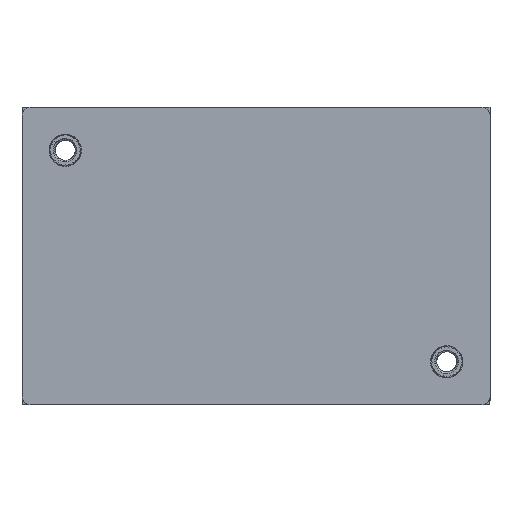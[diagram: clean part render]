
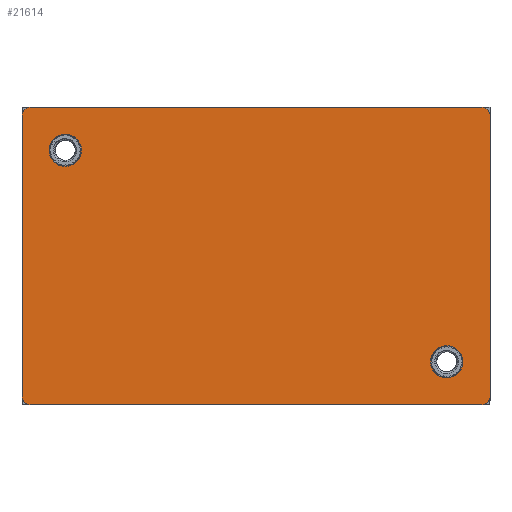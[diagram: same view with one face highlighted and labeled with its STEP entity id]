
A CAD part, front view. The second image highlights one B-rep face of the part: STEP entity #21614.
In plain terms, the highlighted planar face has unit normal (0, -1, 0).
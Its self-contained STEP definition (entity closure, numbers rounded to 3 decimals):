
#97 = ORIENTED_EDGE ( 'NONE', *, *, #21213, .F. ) ;
#459 = ORIENTED_EDGE ( 'NONE', *, *, #17378, .F. ) ;
#761 = EDGE_CURVE ( 'NONE', #12423, #12423, #20253, .T. ) ;
#789 = CARTESIAN_POINT ( 'NONE',  ( -27.95, -1.12, 17.395 ) ) ;
#1066 = EDGE_CURVE ( 'NONE', #16580, #5729, #11504, .T. ) ;
#1899 = AXIS2_PLACEMENT_3D ( 'NONE', #20144, #27161, #7591 ) ;
#2363 = DIRECTION ( 'NONE',  ( 0., 1., 0. ) ) ;
#2553 = VERTEX_POINT ( 'NONE', #27249 ) ;
#2937 = DIRECTION ( 'NONE',  ( 0., 0., 1. ) ) ;
#3107 = FACE_BOUND ( 'NONE', #23101, .T. ) ;
#3298 = LINE ( 'NONE', #13555, #7813 ) ;
#4425 = EDGE_CURVE ( 'NONE', #26777, #28745, #6500, .T. ) ;
#4703 = EDGE_LOOP ( 'NONE', ( #459, #28595, #5207, #10245, #97, #7383, #7781, #27986 ) ) ;
#5207 = ORIENTED_EDGE ( 'NONE', *, *, #4425, .F. ) ;
#5729 = VERTEX_POINT ( 'NONE', #20607 ) ;
#5799 = LINE ( 'NONE', #13277, #28977 ) ;
#5855 = DIRECTION ( 'NONE',  ( 0., 0., 1. ) ) ;
#6174 = CARTESIAN_POINT ( 'NONE',  ( 27.95, -1.12, -17.405 ) ) ;
#6500 = LINE ( 'NONE', #6666, #30883 ) ;
#6666 = CARTESIAN_POINT ( 'NONE',  ( -28.95, -1.12, -18.405 ) ) ;
#7383 = ORIENTED_EDGE ( 'NONE', *, *, #30449, .T. ) ;
#7581 = CARTESIAN_POINT ( 'NONE',  ( -27.95, -1.12, -18.405 ) ) ;
#7591 = DIRECTION ( 'NONE',  ( 0., 0., 1. ) ) ;
#7781 = ORIENTED_EDGE ( 'NONE', *, *, #1066, .F. ) ;
#7813 = VECTOR ( 'NONE', #13398, 1000. ) ;
#7917 = ORIENTED_EDGE ( 'NONE', *, *, #23538, .T. ) ;
#8054 = VERTEX_POINT ( 'NONE', #13855 ) ;
#8170 = DIRECTION ( 'NONE',  ( 0., 0., 1. ) ) ;
#8652 = AXIS2_PLACEMENT_3D ( 'NONE', #18260, #30958, #8170 ) ;
#8778 = DIRECTION ( 'NONE',  ( 0., 0., 1. ) ) ;
#9270 = DIRECTION ( 'NONE',  ( 0., 1., 0. ) ) ;
#10018 = CARTESIAN_POINT ( 'NONE',  ( 23.6, -1.12, -13.085 ) ) ;
#10131 = VECTOR ( 'NONE', #21294, 1000. ) ;
#10245 = ORIENTED_EDGE ( 'NONE', *, *, #10624, .T. ) ;
#10433 = FACE_BOUND ( 'NONE', #19717, .T. ) ;
#10624 = EDGE_CURVE ( 'NONE', #26777, #30429, #10974, .T. ) ;
#10729 = DIRECTION ( 'NONE',  ( 0., -1., 0. ) ) ;
#10744 = FACE_OUTER_BOUND ( 'NONE', #4703, .T. ) ;
#10974 = CIRCLE ( 'NONE', #16689, 1. ) ;
#11093 = VERTEX_POINT ( 'NONE', #30963 ) ;
#11181 = EDGE_CURVE ( 'NONE', #16580, #2553, #25868, .T. ) ;
#11504 = LINE ( 'NONE', #28767, #10131 ) ;
#12222 = ORIENTED_EDGE ( 'NONE', *, *, #761, .T. ) ;
#12423 = VERTEX_POINT ( 'NONE', #27250 ) ;
#12629 = DIRECTION ( 'NONE',  ( 0., 0., 1. ) ) ;
#12918 = CIRCLE ( 'NONE', #18117, 2. ) ;
#13043 = CARTESIAN_POINT ( 'NONE',  ( -23.6, -1.12, 13.075 ) ) ;
#13277 = CARTESIAN_POINT ( 'NONE',  ( -28.95, -1.12, -18.405 ) ) ;
#13398 = DIRECTION ( 'NONE',  ( 0., 0., -1. ) ) ;
#13555 = CARTESIAN_POINT ( 'NONE',  ( 28.95, -1.12, -18.405 ) ) ;
#13815 = DIRECTION ( 'NONE',  ( 0., 0., 1. ) ) ;
#13855 = CARTESIAN_POINT ( 'NONE',  ( 28.95, -1.12, 17.395 ) ) ;
#15189 = VERTEX_POINT ( 'NONE', #19523 ) ;
#15977 = AXIS2_PLACEMENT_3D ( 'NONE', #789, #10729, #5855 ) ;
#16262 = CARTESIAN_POINT ( 'NONE',  ( -23.6, -1.12, 13.075 ) ) ;
#16580 = VERTEX_POINT ( 'NONE', #19307 ) ;
#16689 = AXIS2_PLACEMENT_3D ( 'NONE', #6174, #23593, #8778 ) ;
#17378 = EDGE_CURVE ( 'NONE', #15189, #2553, #5799, .T. ) ;
#17473 = CIRCLE ( 'NONE', #8652, 1. ) ;
#18117 = AXIS2_PLACEMENT_3D ( 'NONE', #10018, #2363, #12629 ) ;
#18260 = CARTESIAN_POINT ( 'NONE',  ( -27.95, -1.12, -17.405 ) ) ;
#19008 = CARTESIAN_POINT ( 'NONE',  ( 28.95, -1.12, -17.405 ) ) ;
#19307 = CARTESIAN_POINT ( 'NONE',  ( -27.95, -1.12, 18.395 ) ) ;
#19523 = CARTESIAN_POINT ( 'NONE',  ( -28.95, -1.12, -17.405 ) ) ;
#19717 = EDGE_LOOP ( 'NONE', ( #7917 ) ) ;
#19728 = AXIS2_PLACEMENT_3D ( 'NONE', #16262, #9270, #13815 ) ;
#20105 = CIRCLE ( 'NONE', #1899, 1. ) ;
#20144 = CARTESIAN_POINT ( 'NONE',  ( 27.95, -1.12, 17.395 ) ) ;
#20253 = CIRCLE ( 'NONE', #19728, 2. ) ;
#20374 = PLANE ( 'NONE',  #23360 ) ;
#20607 = CARTESIAN_POINT ( 'NONE',  ( 27.95, -1.12, 18.395 ) ) ;
#20788 = DIRECTION ( 'NONE',  ( 0., 0., 1. ) ) ;
#21213 = EDGE_CURVE ( 'NONE', #8054, #30429, #3298, .T. ) ;
#21294 = DIRECTION ( 'NONE',  ( 1., 0., 0. ) ) ;
#21614 = ADVANCED_FACE ( 'NONE', ( #10744, #3107, #10433 ), #20374, .F. ) ;
#23101 = EDGE_LOOP ( 'NONE', ( #12222 ) ) ;
#23360 = AXIS2_PLACEMENT_3D ( 'NONE', #13043, #30634, #2937 ) ;
#23538 = EDGE_CURVE ( 'NONE', #11093, #11093, #12918, .T. ) ;
#23593 = DIRECTION ( 'NONE',  ( 0., -1., 0. ) ) ;
#25868 = CIRCLE ( 'NONE', #15977, 1. ) ;
#26777 = VERTEX_POINT ( 'NONE', #30090 ) ;
#26852 = DIRECTION ( 'NONE',  ( -1., 0., 0. ) ) ;
#27161 = DIRECTION ( 'NONE',  ( 0., -1., 0. ) ) ;
#27249 = CARTESIAN_POINT ( 'NONE',  ( -28.95, -1.12, 17.395 ) ) ;
#27250 = CARTESIAN_POINT ( 'NONE',  ( -23.6, -1.12, 15.075 ) ) ;
#27986 = ORIENTED_EDGE ( 'NONE', *, *, #11181, .T. ) ;
#28595 = ORIENTED_EDGE ( 'NONE', *, *, #31357, .T. ) ;
#28745 = VERTEX_POINT ( 'NONE', #7581 ) ;
#28767 = CARTESIAN_POINT ( 'NONE',  ( -28.95, -1.12, 18.395 ) ) ;
#28977 = VECTOR ( 'NONE', #20788, 1000. ) ;
#30090 = CARTESIAN_POINT ( 'NONE',  ( 27.95, -1.12, -18.405 ) ) ;
#30429 = VERTEX_POINT ( 'NONE', #19008 ) ;
#30449 = EDGE_CURVE ( 'NONE', #8054, #5729, #20105, .T. ) ;
#30634 = DIRECTION ( 'NONE',  ( 0., 1., 0. ) ) ;
#30883 = VECTOR ( 'NONE', #26852, 1000. ) ;
#30958 = DIRECTION ( 'NONE',  ( 0., -1., 0. ) ) ;
#30963 = CARTESIAN_POINT ( 'NONE',  ( 23.6, -1.12, -11.085 ) ) ;
#31357 = EDGE_CURVE ( 'NONE', #15189, #28745, #17473, .T. ) ;
